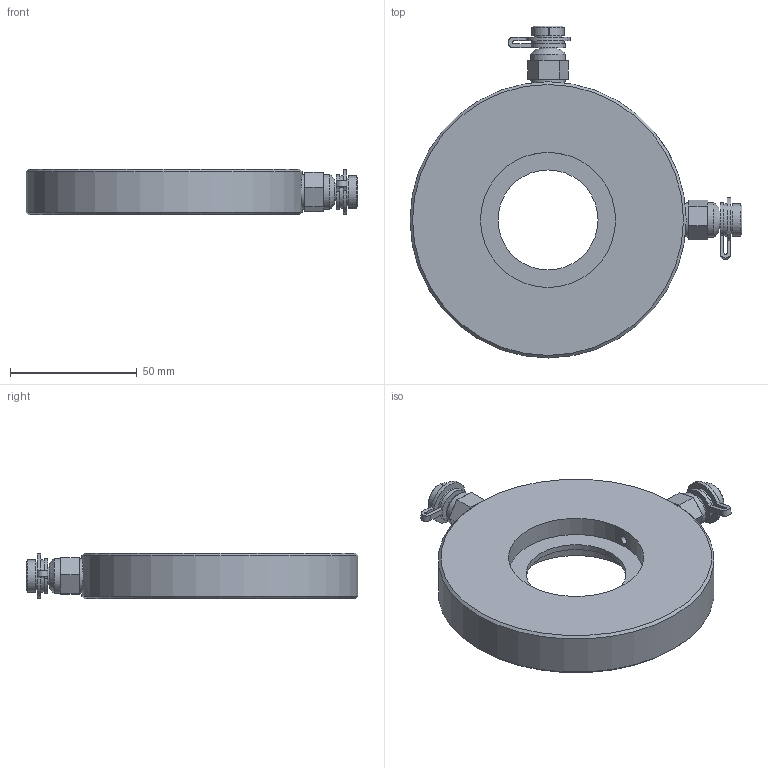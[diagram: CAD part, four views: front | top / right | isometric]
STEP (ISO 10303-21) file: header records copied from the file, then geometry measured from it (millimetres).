
FILE_DESCRIPTION((''),'2;1');
FILE_NAME('P:\Fastrack\53972_CRANE 3D\Workspace\DM900_DN50\DM900_DN50.stp','2010-12-22T16:55:00',('btaylor'),(''),'Autodesk Inventor 2008','Autodesk Inventor 2008','');
FILE_SCHEMA(('AUTOMOTIVE_DESIGN { 1 0 10303 214 1 1 1 1 }'));
Length unit declared in the file: millimetre
Products named in the file (1): DM900_DN50
Bounding box: 131.1 x 131.1 x 18 mm (x, y, z)
Volume: 136182.7 mm3; surface area: 28412.2 mm2
Topology: 1 solids, 1 shells, 103 faces, 232 edges, 150 vertices
Faces by surface type: plane 48, cylinder 29, bspline 18, cone 8
Full cylindrical faces by diameter (mm): 3.2 x2, 7.4 x2, 11 x2, 12.7 x2, 13.7 x2, 39.5 x1, 53.35 x2, 109 x1
Entity records: 7556 total; most frequent: CARTESIAN_POINT 5325, ORIENTED_EDGE 392, DIRECTION 390, EDGE_CURVE 196, EDGE_LOOP 152, AXIS2_PLACEMENT_3D 150, VERTEX_POINT 138, STYLED_ITEM 104
